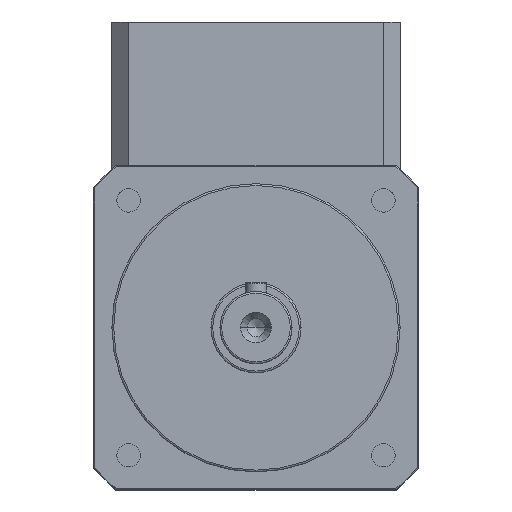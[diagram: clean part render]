
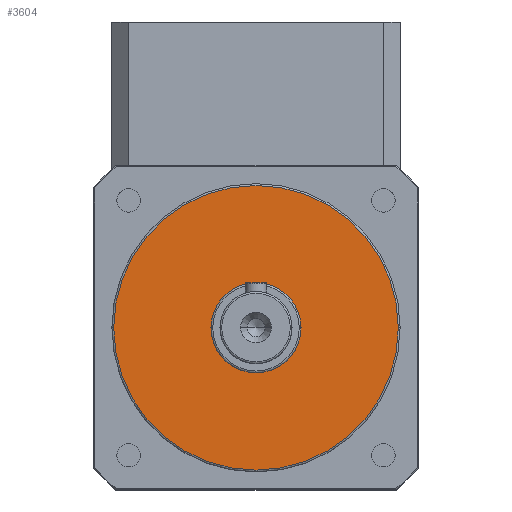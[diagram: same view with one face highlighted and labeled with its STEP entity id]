
A CAD part, top view. The second image highlights one B-rep face of the part: STEP entity #3604.
In plain terms, the highlighted planar face has unit normal (0, 0, 1).
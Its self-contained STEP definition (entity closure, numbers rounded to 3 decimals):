
#74 = CARTESIAN_POINT ( 'NONE',  ( 0., 0., 3. ) ) ;
#85 = CARTESIAN_POINT ( 'NONE',  ( 0., 0., 3. ) ) ;
#444 = DIRECTION ( 'NONE',  ( 0., 0., 1. ) ) ;
#480 = CARTESIAN_POINT ( 'NONE',  ( 0., 0., 3. ) ) ;
#527 = DIRECTION ( 'NONE',  ( 0., 0., 1. ) ) ;
#529 = DIRECTION ( 'NONE',  ( 1., 0., 0. ) ) ;
#556 = DIRECTION ( 'NONE',  ( 1., 0., 0. ) ) ;
#574 = EDGE_LOOP ( 'NONE', ( #3155, #4857 ) ) ;
#774 = FACE_OUTER_BOUND ( 'NONE', #574, .T. ) ;
#1015 = CARTESIAN_POINT ( 'NONE',  ( -39.5, 0., 3. ) ) ;
#1155 = EDGE_CURVE ( 'NONE', #4923, #4985, #3639, .T. ) ;
#1206 = CIRCLE ( 'NONE', #5222, 12.5 ) ;
#1435 = DIRECTION ( 'NONE',  ( 0., 0., 1. ) ) ;
#1663 = EDGE_LOOP ( 'NONE', ( #5060, #4041 ) ) ;
#1696 = EDGE_CURVE ( 'NONE', #5822, #3589, #3199, .T. ) ;
#1873 = CIRCLE ( 'NONE', #5521, 39.5 ) ;
#2058 = CARTESIAN_POINT ( 'NONE',  ( 39.5, 0., 3. ) ) ;
#2083 = AXIS2_PLACEMENT_3D ( 'NONE', #480, #1435, #4756 ) ;
#2385 = PLANE ( 'NONE',  #2083 ) ;
#3155 = ORIENTED_EDGE ( 'NONE', *, *, #4353, .T. ) ;
#3172 = AXIS2_PLACEMENT_3D ( 'NONE', #85, #3369, #556 ) ;
#3199 = CIRCLE ( 'NONE', #3172, 12.5 ) ;
#3273 = CARTESIAN_POINT ( 'NONE',  ( 0., 0., 3. ) ) ;
#3349 = CARTESIAN_POINT ( 'NONE',  ( 0., 0., 3. ) ) ;
#3352 = DIRECTION ( 'NONE',  ( 0., 0., 1. ) ) ;
#3369 = DIRECTION ( 'NONE',  ( 0., 0., 1. ) ) ;
#3589 = VERTEX_POINT ( 'NONE', #4247 ) ;
#3604 = ADVANCED_FACE ( 'NONE', ( #4706, #774 ), #2385, .T. ) ;
#3639 = CIRCLE ( 'NONE', #4585, 39.5 ) ;
#3749 = DIRECTION ( 'NONE',  ( 1., 0., 0. ) ) ;
#3832 = DIRECTION ( 'NONE',  ( 1., 0., 0. ) ) ;
#4041 = ORIENTED_EDGE ( 'NONE', *, *, #5689, .F. ) ;
#4247 = CARTESIAN_POINT ( 'NONE',  ( -12.5, 0., 3. ) ) ;
#4305 = CARTESIAN_POINT ( 'NONE',  ( 12.5, 0., 3. ) ) ;
#4353 = EDGE_CURVE ( 'NONE', #4985, #4923, #1873, .T. ) ;
#4585 = AXIS2_PLACEMENT_3D ( 'NONE', #3349, #527, #3832 ) ;
#4706 = FACE_BOUND ( 'NONE', #1663, .T. ) ;
#4756 = DIRECTION ( 'NONE',  ( 1., 0., 0. ) ) ;
#4857 = ORIENTED_EDGE ( 'NONE', *, *, #1155, .T. ) ;
#4923 = VERTEX_POINT ( 'NONE', #1015 ) ;
#4985 = VERTEX_POINT ( 'NONE', #2058 ) ;
#5060 = ORIENTED_EDGE ( 'NONE', *, *, #1696, .F. ) ;
#5222 = AXIS2_PLACEMENT_3D ( 'NONE', #3273, #444, #3749 ) ;
#5521 = AXIS2_PLACEMENT_3D ( 'NONE', #74, #3352, #529 ) ;
#5689 = EDGE_CURVE ( 'NONE', #3589, #5822, #1206, .T. ) ;
#5822 = VERTEX_POINT ( 'NONE', #4305 ) ;
